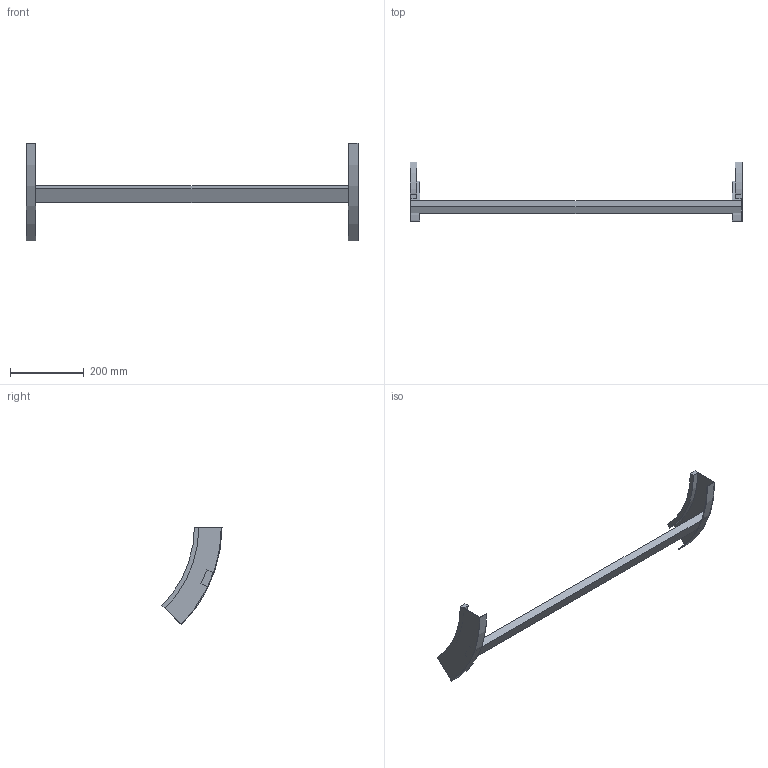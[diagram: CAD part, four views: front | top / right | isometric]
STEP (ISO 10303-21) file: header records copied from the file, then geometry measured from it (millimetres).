
FILE_DESCRIPTION (( 'STEP AP214' ), '1' );
FILE_NAME ('B2X31B3C900XX.step', '2025-03-20T10:10:41', ( '' ), ( '' ), 'SwSTEP 2.0', 'SolidWorks 2023', '' );
FILE_SCHEMA (( 'AUTOMOTIVE_DESIGN' ));
Length unit declared in the file: millimetre
Products named in the file (3): B2X31B3C900XX; B2_LONGH.SALITA_45°_H75_R300; TRAVERSINO_900
Assembly tree (3 placements, depth 2):
  B2X31B3C900XX
    B2_LONGH.SALITA_45°_H75_R300  x2
    TRAVERSINO_900
Bounding box: 900 x 162.87 x 265.17 mm (x, y, z)
Volume: 926942.9 mm3; surface area: 238001.3 mm2
Topology: 3 solids, 3 shells, 26 faces, 60 edges, 40 vertices
Faces by surface type: plane 18, cylinder 8
Entity records: 544 total; most frequent: DIRECTION 88, CARTESIAN_POINT 82, ORIENTED_EDGE 72, EDGE_CURVE 36, AXIS2_PLACEMENT_3D 30, LINE 28, VECTOR 28, VERTEX_POINT 24
